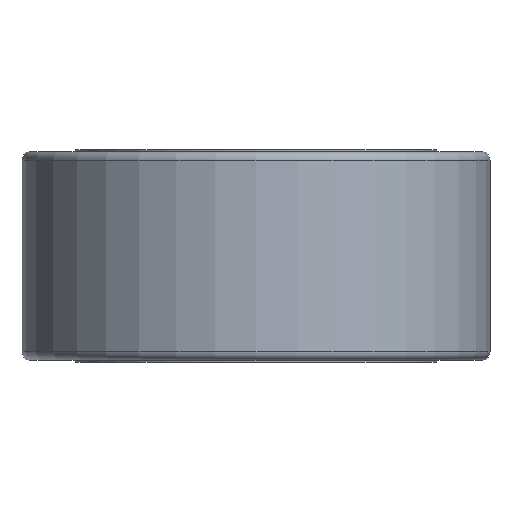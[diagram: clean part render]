
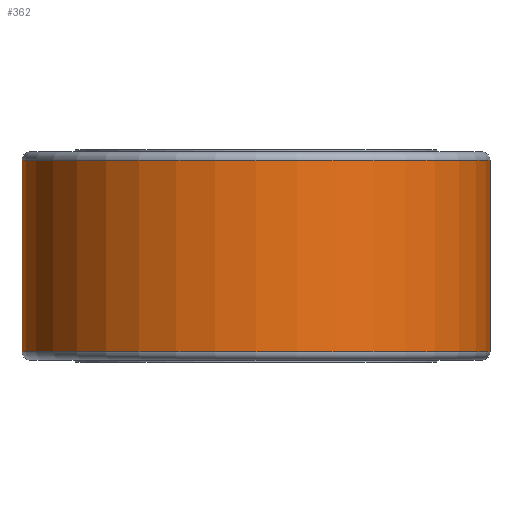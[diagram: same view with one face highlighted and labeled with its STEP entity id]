
A CAD part, front view. The second image highlights one B-rep face of the part: STEP entity #362.
In plain terms, the highlighted cylindrical face has radius 110 mm (diameter 220 mm), a partial arc.
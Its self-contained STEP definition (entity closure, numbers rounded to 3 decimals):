
#4 = CYLINDRICAL_SURFACE ( 'NONE', #63, 110. ) ;
#34 = VERTEX_POINT ( 'NONE', #129 ) ;
#36 = ORIENTED_EDGE ( 'NONE', *, *, #287, .T. ) ;
#48 = ORIENTED_EDGE ( 'NONE', *, *, #472, .F. ) ;
#63 = AXIS2_PLACEMENT_3D ( 'NONE', #128, #258, #465 ) ;
#94 = DIRECTION ( 'NONE',  ( 0., 0., -1. ) ) ;
#102 = CARTESIAN_POINT ( 'NONE',  ( 110., 0., 98. ) ) ;
#114 = VERTEX_POINT ( 'NONE', #334 ) ;
#128 = CARTESIAN_POINT ( 'NONE',  ( 0., 0., 98. ) ) ;
#129 = CARTESIAN_POINT ( 'NONE',  ( -110., 0., 94. ) ) ;
#136 = AXIS2_PLACEMENT_3D ( 'NONE', #491, #411, #413 ) ;
#141 = CIRCLE ( 'NONE', #136, 110. ) ;
#190 = ORIENTED_EDGE ( 'NONE', *, *, #546, .T. ) ;
#211 = VERTEX_POINT ( 'NONE', #566 ) ;
#217 = ORIENTED_EDGE ( 'NONE', *, *, #393, .T. ) ;
#258 = DIRECTION ( 'NONE',  ( 0., 0., -1. ) ) ;
#287 = EDGE_CURVE ( 'NONE', #34, #211, #532, .T. ) ;
#301 = EDGE_LOOP ( 'NONE', ( #48, #217, #36, #190 ) ) ;
#316 = VECTOR ( 'NONE', #94, 1000. ) ;
#319 = DIRECTION ( 'NONE',  ( 0., 0., -1. ) ) ;
#334 = CARTESIAN_POINT ( 'NONE',  ( 110., 0., 4. ) ) ;
#351 = CARTESIAN_POINT ( 'NONE',  ( 110., 0., 94. ) ) ;
#362 = ADVANCED_FACE ( 'NONE', ( #496 ), #4, .T. ) ;
#389 = CIRCLE ( 'NONE', #538, 110. ) ;
#391 = CARTESIAN_POINT ( 'NONE',  ( -110., 0., 98. ) ) ;
#393 = EDGE_CURVE ( 'NONE', #497, #34, #141, .T. ) ;
#411 = DIRECTION ( 'NONE',  ( 0., 0., -1. ) ) ;
#413 = DIRECTION ( 'NONE',  ( 1., 0., 0. ) ) ;
#421 = VECTOR ( 'NONE', #319, 1000. ) ;
#431 = CARTESIAN_POINT ( 'NONE',  ( 0., 0., 4. ) ) ;
#434 = LINE ( 'NONE', #102, #421 ) ;
#438 = DIRECTION ( 'NONE',  ( 1., 0., 0. ) ) ;
#441 = DIRECTION ( 'NONE',  ( 0., 0., 1. ) ) ;
#465 = DIRECTION ( 'NONE',  ( -1., 0., 0. ) ) ;
#472 = EDGE_CURVE ( 'NONE', #497, #114, #434, .T. ) ;
#491 = CARTESIAN_POINT ( 'NONE',  ( 0., 0., 94. ) ) ;
#496 = FACE_OUTER_BOUND ( 'NONE', #301, .T. ) ;
#497 = VERTEX_POINT ( 'NONE', #351 ) ;
#532 = LINE ( 'NONE', #391, #316 ) ;
#538 = AXIS2_PLACEMENT_3D ( 'NONE', #431, #441, #438 ) ;
#546 = EDGE_CURVE ( 'NONE', #211, #114, #389, .T. ) ;
#566 = CARTESIAN_POINT ( 'NONE',  ( -110., 0., 4. ) ) ;
